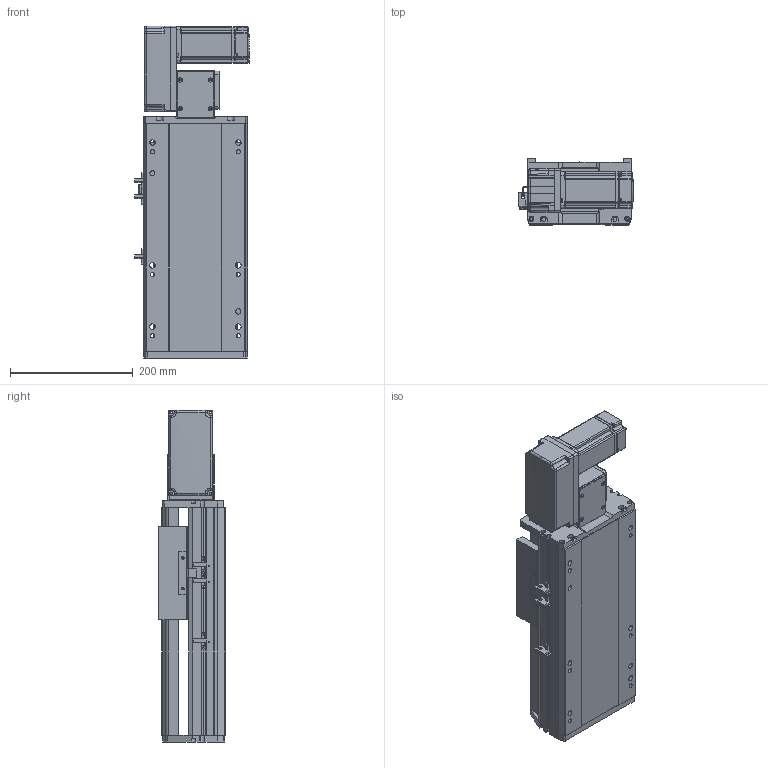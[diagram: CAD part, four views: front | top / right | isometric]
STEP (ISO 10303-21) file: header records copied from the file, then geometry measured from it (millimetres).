
FILE_DESCRIPTION (( 'STEP AP214' ), '1' );
FILE_NAME ('RTB17S-XX-100-L-M40-C4.STEP', '2025-12-11T03:45:32', ( '' ), ( '' ), 'SwSTEP 2.0', 'SolidWorks 2018', '' );
FILE_SCHEMA (( 'AUTOMOTIVE_DESIGN' ));
Length unit declared in the file: millimetre
Products named in the file (14): RTB17S-XX-100-L-M40-C4; RTB14-L-018P^RTB17S-L-々湍釱蚾饜-400W_RTB17S-XX-XX-L-M40-C4; 400W侜督萇儂^RTB17S-XX-XX-L-M40-C4; OMRON EE-SX672 传感器^RTB17S-XX-XX-L-M40-C4; RTB17S-L-007奻裔^RTB17S-XX-XX-L-M40-C4; RTH13-BL-012覜茼え俋离^RTB17S-XX-XX-L-M40-C4; RTB17S-L-々湍釱蚾饜-400W^RTB17S-XX-XX-L-M40-C4; RTB17-R-011菁釱^RTB17S-XX-XX-L-M40-C4; RMP17S-L-014-T20--々湍釱^RTB17S-L-々湍釱蚾饜-400W_RTB17S-XX-XX-L-M40-C4; RTB14-L-017P^RTB17S-L-々湍釱蚾饜-400W_RTB17S-XX-XX-L-M40-C4; RTB17S-L-001耜醱啣^RTB17S-XX-XX-L-M40-C4; RTB14-L-005P--轴承塑胶压盖^RTB17S-L-皮带座装配-400W_RTB17S-XX-XX-L-M40-C4; RTB14-L-008-M20--萇儂啣^RTB17S-L-々湍釱蚾饜-400W_RTB17S-XX-XX-L-M40-C4; RTB17S-L-004佪裝蹟譫蟀諉釱^RTB17S-XX-XX-L-M40-C4
Assembly tree (16 placements, depth 3):
  RTB17S-XX-100-L-M40-C4
    RTB17-R-011菁釱^RTB17S-XX-XX-L-M40-C4
    RTB17S-L-007奻裔^RTB17S-XX-XX-L-M40-C4
    OMRON EE-SX672 传感器^RTB17S-XX-XX-L-M40-C4  x3
    RTB17S-L-001耜醱啣^RTB17S-XX-XX-L-M40-C4
    400W侜督萇儂^RTB17S-XX-XX-L-M40-C4
    RTB17S-L-004佪裝蹟譫蟀諉釱^RTB17S-XX-XX-L-M40-C4
    RTH13-BL-012覜茼え俋离^RTB17S-XX-XX-L-M40-C4
    RTB17S-L-々湍釱蚾饜-400W^RTB17S-XX-XX-L-M40-C4
      RMP17S-L-014-T20--々湍釱^RTB17S-L-々湍釱蚾饜-400W_RTB17S-XX-XX-L-M40-C4
      RTB14-L-005P--轴承塑胶压盖^RTB17S-L-皮带座装配-400W_RTB17S-XX-XX-L-M40-C4
      RTB14-L-008-M20--萇儂啣^RTB17S-L-々湍釱蚾饜-400W_RTB17S-XX-XX-L-M40-C4
      RTB14-L-017P^RTB17S-L-々湍釱蚾饜-400W_RTB17S-XX-XX-L-M40-C4  x2
      RTB14-L-018P^RTB17S-L-々湍釱蚾饜-400W_RTB17S-XX-XX-L-M40-C4
Bounding box: 186 x 108 x 541 mm (x, y, z)
Volume: 5032331.6 mm3; surface area: 698601.9 mm2
Topology: 15 solids, 15 shells, 2141 faces, 5871 edges, 3825 vertices
Faces by surface type: plane 1060, cylinder 633, bspline 301, cone 139, torus 8
Entity records: 59561 total; most frequent: CARTESIAN_POINT 16476, ORIENTED_EDGE 8586, DIRECTION 8036, EDGE_CURVE 4293, VERTEX_POINT 2813, AXIS2_PLACEMENT_3D 2743, LINE 2550, VECTOR 2550
